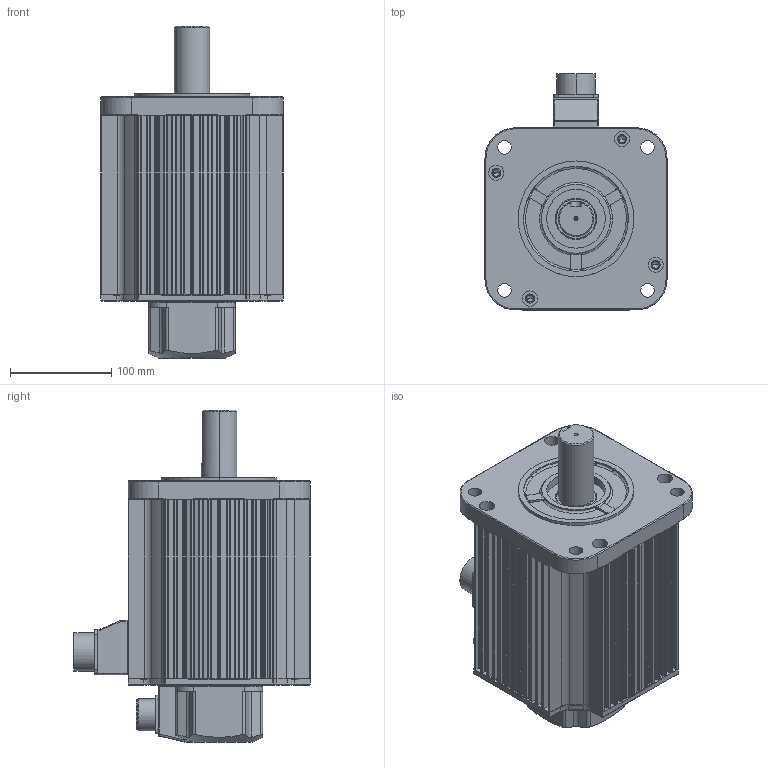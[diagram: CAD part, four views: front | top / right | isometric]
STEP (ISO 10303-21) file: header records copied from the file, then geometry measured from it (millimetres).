
FILE_DESCRIPTION (( 'STEP AP214' ), '1' );
FILE_NAME ('KAND-50B¡à1B2.STEP', '2026-09-12T03:16:28', ( '' ), ( '' ), 'SwSTEP 2.0', 'SolidWorks 2023', '' );
FILE_SCHEMA (( 'AUTOMOTIVE_DESIGN' ));
Length unit declared in the file: millimetre
Products named in the file (11): 10050907 RUBBER SEAL_MS22 or MS24; Ø35-KEY10X50; MS3102A 20-29P; MS3102A 24_표준; KAND-50B□1B2; □180-176.5mm; □180 BRACKET_BR; 10050908 CONNECTOR BOX_MS22 or MS24; 1005052200 ENCODER COVER; □180 FLANGE; 10050523 GASKET_돌출형
Assembly tree (10 placements, depth 2):
  KAND-50B□1B2
    □180-176.5mm
    □180 FLANGE
    □180 BRACKET_BR
    1005052200 ENCODER COVER
    10050523 GASKET_돌출형
    10050907 RUBBER SEAL_MS22 or MS24
    10050908 CONNECTOR BOX_MS22 or MS24
    MS3102A 20-29P
    MS3102A 24_표준
    Ø35-KEY10X50
Bounding box: 180 x 233.62 x 328.2 mm (x, y, z)
Volume: 1693150 mm3; surface area: 585879.6 mm2
Topology: 10 solids, 10 shells, 1748 faces, 4798 edges, 3124 vertices
Faces by surface type: cylinder 912, plane 605, torus 122, cone 72, bspline 35, sphere 2
Entity records: 59123 total; most frequent: CARTESIAN_POINT 13295, DIRECTION 9938, ORIENTED_EDGE 9524, EDGE_CURVE 4762, AXIS2_PLACEMENT_3D 3823, VERTEX_POINT 3124, LINE 2292, VECTOR 2292
